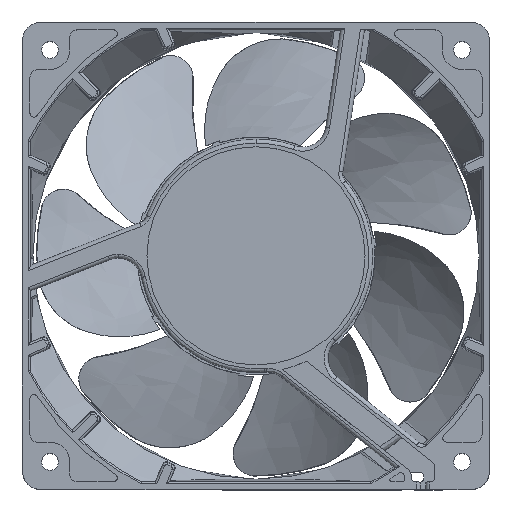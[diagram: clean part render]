
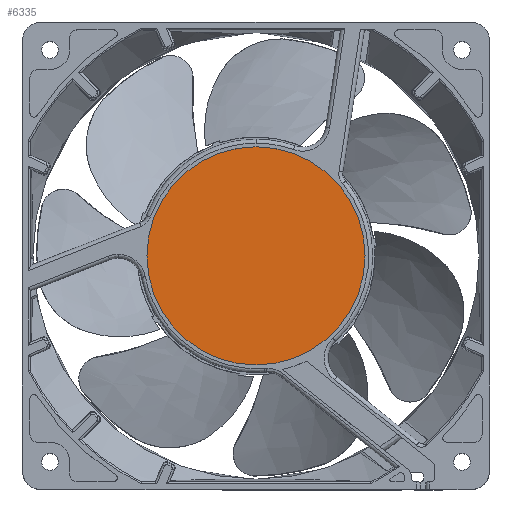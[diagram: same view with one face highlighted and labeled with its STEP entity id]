
A CAD part, top view. The second image highlights one B-rep face of the part: STEP entity #6335.
In plain terms, the highlighted planar face has unit normal (0, 0, 1).
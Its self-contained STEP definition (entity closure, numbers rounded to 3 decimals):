
#3015 = DIRECTION ( 'NONE',  ( 0., 0., 1. ) ) ;
#5466 = ORIENTED_EDGE ( 'NONE', *, *, #22781, .T. ) ;
#6235 = DIRECTION ( 'NONE',  ( 0., 0., 1. ) ) ;
#6335 = ADVANCED_FACE ( 'NONE', ( #11673 ), #19764, .T. ) ;
#7807 = CARTESIAN_POINT ( 'NONE',  ( 27.75, 0., -0.1 ) ) ;
#8137 = AXIS2_PLACEMENT_3D ( 'NONE', #15966, #3015, #18012 ) ;
#10163 = AXIS2_PLACEMENT_3D ( 'NONE', #19908, #18997, #18973 ) ;
#11673 = FACE_OUTER_BOUND ( 'NONE', #17867, .T. ) ;
#13280 = VERTEX_POINT ( 'NONE', #19720 ) ;
#15966 = CARTESIAN_POINT ( 'NONE',  ( 0., 0., -0.1 ) ) ;
#17113 = CIRCLE ( 'NONE', #8137, 27.75 ) ;
#17867 = EDGE_LOOP ( 'NONE', ( #18752, #5466 ) ) ;
#18012 = DIRECTION ( 'NONE',  ( 1., 0., 0. ) ) ;
#18249 = VERTEX_POINT ( 'NONE', #7807 ) ;
#18752 = ORIENTED_EDGE ( 'NONE', *, *, #19469, .T. ) ;
#18959 = CARTESIAN_POINT ( 'NONE',  ( 0., 0., -0.1 ) ) ;
#18973 = DIRECTION ( 'NONE',  ( 1., 0., 0. ) ) ;
#18997 = DIRECTION ( 'NONE',  ( 0., 0., 1. ) ) ;
#19469 = EDGE_CURVE ( 'NONE', #18249, #13280, #21562, .T. ) ;
#19720 = CARTESIAN_POINT ( 'NONE',  ( -27.75, 0., -0.1 ) ) ;
#19764 = PLANE ( 'NONE',  #10163 ) ;
#19908 = CARTESIAN_POINT ( 'NONE',  ( 0., 0., -0.1 ) ) ;
#20960 = DIRECTION ( 'NONE',  ( 1., 0., 0. ) ) ;
#21562 = CIRCLE ( 'NONE', #26802, 27.75 ) ;
#22781 = EDGE_CURVE ( 'NONE', #13280, #18249, #17113, .T. ) ;
#26802 = AXIS2_PLACEMENT_3D ( 'NONE', #18959, #6235, #20960 ) ;
